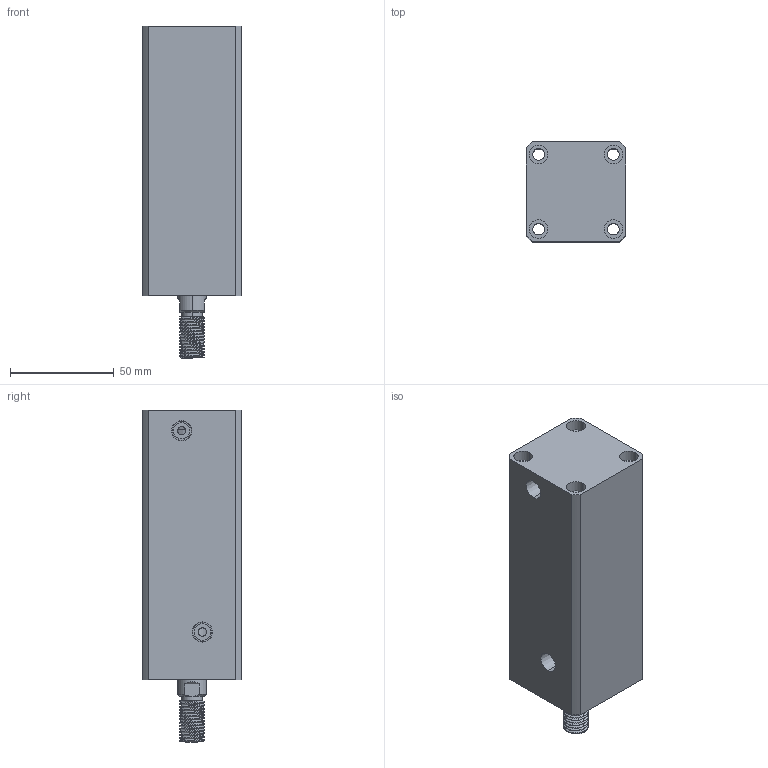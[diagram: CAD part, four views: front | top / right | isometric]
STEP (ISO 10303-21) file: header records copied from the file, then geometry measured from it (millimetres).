
FILE_DESCRIPTION (( 'STEP AP214' ), '1' );
FILE_NAME ('chtb-sd25x85w_asm.STEP', '2018-05-22T09:45:37', ( 'Windows' ), ( 'Microsoft' ), 'SwSTEP 2.0', 'SolidWorks 2015', '' );
FILE_SCHEMA (( 'AUTOMOTIVE_DESIGN' ));
Length unit declared in the file: millimetre
Products named in the file (4): chtb-sd25x85w_asm; CHTB-SD25X85WHSG; CHTB-SD25X85NBT; CHTB-25QG
Assembly tree (3 placements, depth 2):
  chtb-sd25x85w_asm
    CHTB-25QG
    CHTB-SD25X85NBT
    CHTB-SD25X85WHSG
Bounding box: 48 x 48 x 160 mm (x, y, z)
Volume: 255589.8 mm3; surface area: 62484.7 mm2
Topology: 3 solids, 3 shells, 178 faces, 474 edges, 323 vertices
Faces by surface type: cylinder 113, plane 39, cone 14, bspline 12
Entity records: 10610 total; most frequent: CARTESIAN_POINT 6273, ORIENTED_EDGE 940, DIRECTION 778, EDGE_CURVE 470, VERTEX_POINT 323, AXIS2_PLACEMENT_3D 317, EDGE_LOOP 217, FACE_OUTER_BOUND 178
